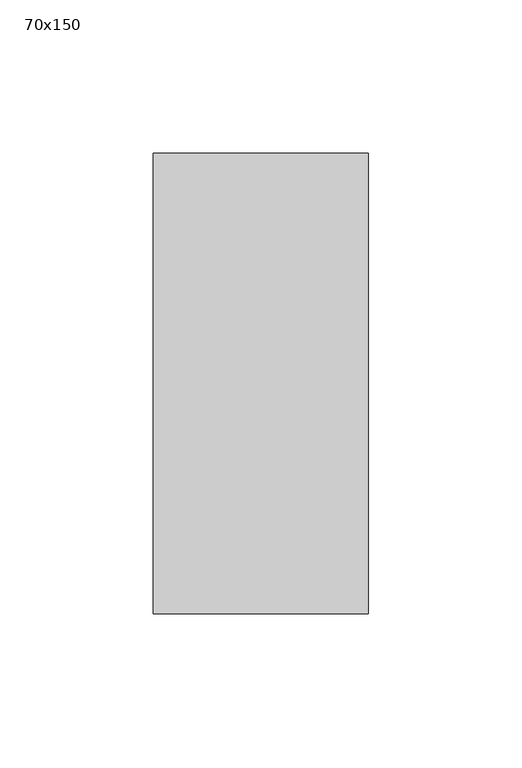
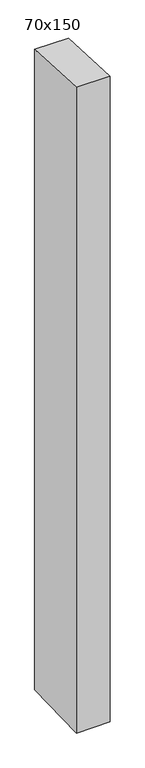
"""IFC4 building model written with IfcOpenShell, lengths in millimetres: member geometry, 長方形のマリオン : 70x150."""

from ifc_helpers import new_model, si_unit, frame, origin, place, context, project, spatial, polyline, outline, extrude, source, transform, mapped, element, save


def member_70x150_422f1907(model_context):
    return source(origin(), model_context, "Body", "SweptSolid", [
        extrude(outline(polyline([(-75.0, 3.7398753), (75.0, -3.7398753), (75.0, -1412.7445087), (-75.0, -1417.2882072), (-75.0, 3.7398753)])), frame((-35.0, 0.0, 0.0), z_axis=(1.0, 0.0, 0.0), x_axis=(0.0, 1.0, 0.0)), (0.0, 0.0, 1.0), 70.0),
    ])


if __name__ == "__main__":
    model = new_model("IFC4")
    model_context = context("Model", 3, world=origin())
    ifc_project = project(units=[si_unit("LENGTHUNIT", "METRE", prefix="MILLI")], contexts=[model_context])
    site = spatial("IfcSite", under=ifc_project)
    building = spatial("IfcBuilding", under=site)
    placement = place(None, origin())
    member_70x150_shape = member_70x150_422f1907(model_context)
    element("IfcMember", 1, ObjectType="長方形のマリオン : 70x150", at=placement, inside=building, context=model_context, shape_type="MappedRepresentation", body=[
        mapped(member_70x150_shape, transform((0.0, 0.0, 0.0), x_axis=(1.0, 0.0, 0.0), y_axis=(0.0, 1.0, 0.0), z_axis=(0.0, 0.0, 1.0))),
    ])
    save(model, "model.ifc")
